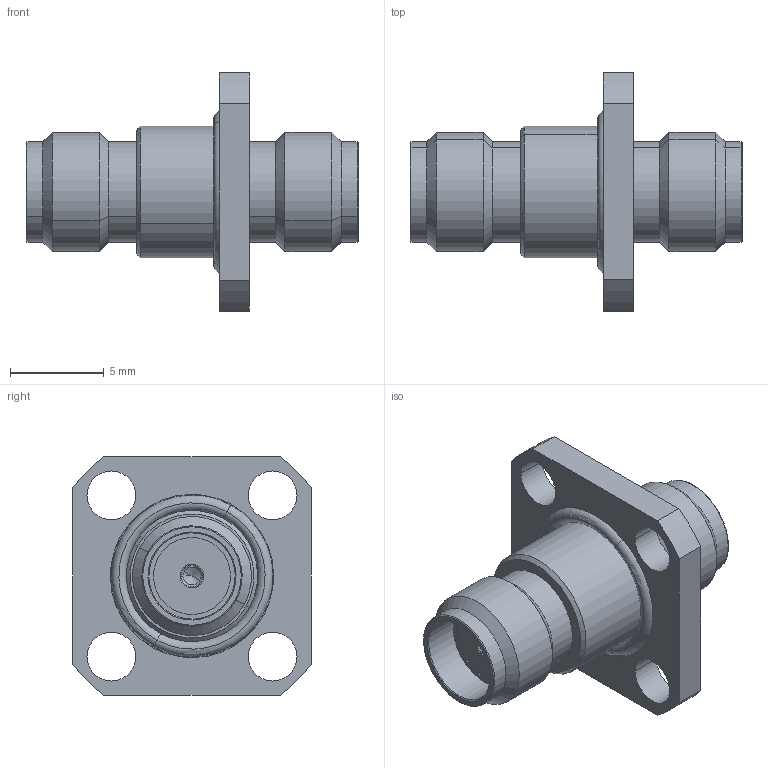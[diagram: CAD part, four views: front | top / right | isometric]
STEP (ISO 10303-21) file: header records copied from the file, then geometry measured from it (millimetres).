
FILE_DESCRIPTION(('CATIA V5 STEP Exchange'),'2;1');
FILE_NAME('D:\Work SZ\CMP 图纸\Precision Adapter\P-SMA-SMA\P-SMAF-SMAF-263\P-SMAF-SMAF-263(REV.A).stp','2021-05-16T09:12:31+00:00',('none'),('none'),'CATIA Version 5 Release 20 GA (IN-10)','CATIA V5 STEP AP203','none');
FILE_SCHEMA(('CONFIG_CONTROL_DESIGN'));
Length unit declared in the file: millimetre
Products named in the file (1): P-SMAF-SMAF-263
Bounding box: 17.7 x 12.7 x 12.7 mm (x, y, z)
Volume: 635.7 mm3; surface area: 884.6 mm2
Topology: 2 solids, 2 shells, 113 faces, 270 edges, 166 vertices
Faces by surface type: cylinder 46, plane 31, cone 26, torus 10
Entity records: 2966 total; most frequent: CARTESIAN_POINT 580, ORIENTED_EDGE 532, DIRECTION 364, EDGE_CURVE 266, AXIS2_PLACEMENT_3D 198, VERTEX_POINT 166, CIRCLE 142, EDGE_LOOP 132
